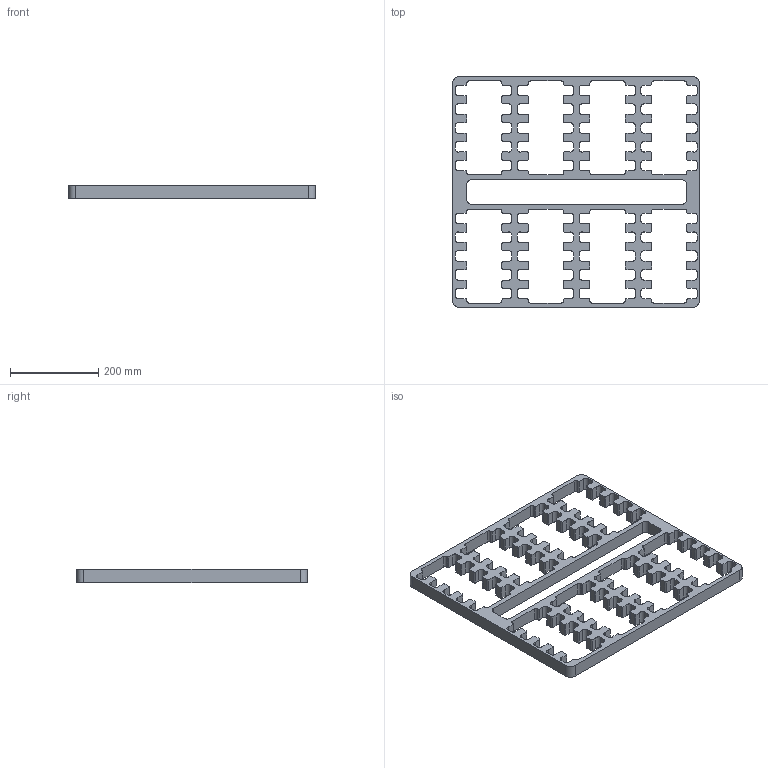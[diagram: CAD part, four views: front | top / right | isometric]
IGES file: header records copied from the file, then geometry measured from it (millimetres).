
Global section: file name: foam_6 v1; native system: unknown; preprocessor: unknown; author: unknown; organization: unknown; date: 20190213.104921; units: millimetre
Bounding box: 558.93 x 522.42 x 30 mm (x, y, z)
Volume: 2563069.9 mm3; surface area: 502935.6 mm2
Topology: 1 solids, 1 shells, 722 faces, 2160 edges, 1440 vertices
Faces by surface type: bspline 722
